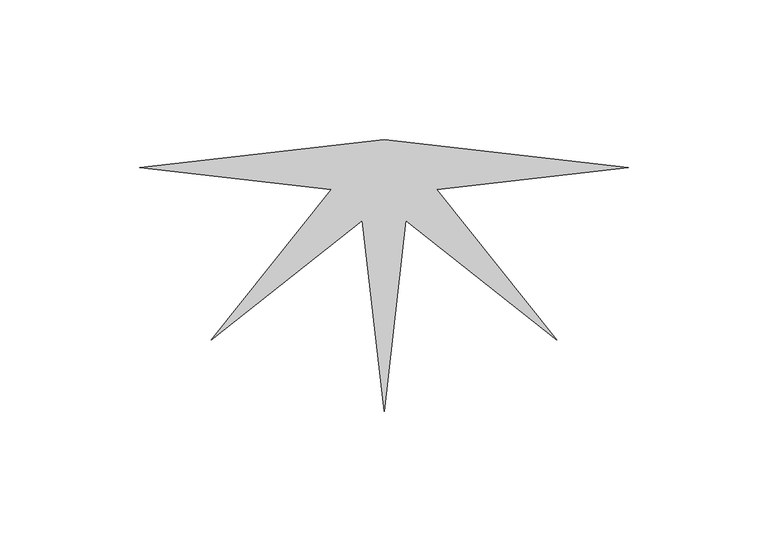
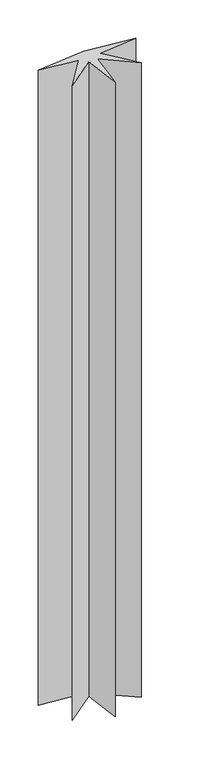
"""IFC4 building model written with IfcOpenShell, lengths in millimetres: member geometry, Импост круглого сечения : Радиус 25 мм 2."""

from ifc_helpers import new_model, si_unit, frame, origin, place, context, project, spatial, polyline, outline, extrude, source, transform, mapped, element, save


def member_f6eef321(model_context):
    return source(origin(), model_context, "Body", "SweptSolid", [
        extrude(outline(polyline([(87.3482793, 0.0), (18.9143973, -7.8345999), (61.7645606, -61.7645606), (7.8345999, -18.9143973), (0.0, -87.3482793), (-7.8345999, -18.9143973), (-61.7645606, -61.7645606), (-18.9143973, -7.8345999), (-87.3482793, 0.0), (0.0, 10.0), (87.3482793, 0.0)])), frame((0.0, 0.0, -1200.0), z_axis=(0.0, 0.0, 1.0), x_axis=(1.0, 0.0, 0.0)), (0.0, 0.0, 1.0), 1200.0),
    ])


if __name__ == "__main__":
    model = new_model("IFC4")
    model_context = context("Model", 3, world=origin())
    ifc_project = project(units=[si_unit("LENGTHUNIT", "METRE", prefix="MILLI")], contexts=[model_context])
    site = spatial("IfcSite", under=ifc_project)
    building = spatial("IfcBuilding", under=site)
    placement = place(None, origin())
    member_shape = member_f6eef321(model_context)
    element("IfcMember", 1, ObjectType="Импост круглого сечения : Радиус 25 мм 2", at=placement, inside=building, context=model_context, shape_type="MappedRepresentation", body=[
        mapped(member_shape, transform((0.0, 0.0, 0.0), x_axis=(1.0, 0.0, 0.0), y_axis=(0.0, 1.0, 0.0), z_axis=(0.0, 0.0, 1.0))),
    ])
    save(model, "model.ifc")
